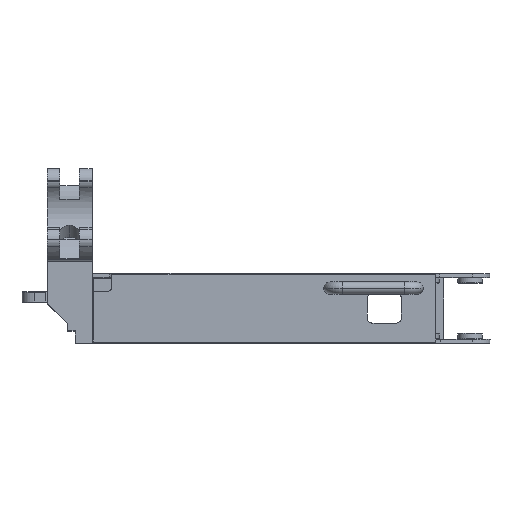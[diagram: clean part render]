
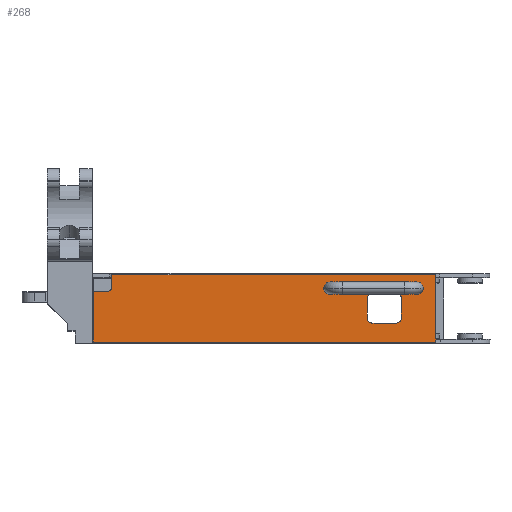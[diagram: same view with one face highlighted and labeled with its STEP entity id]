
A CAD part, top view. The second image highlights one B-rep face of the part: STEP entity #268.
In plain terms, the highlighted planar face has unit normal (0, 0, 1) as drawn and (0.001, 0, -1) by its records, which use the part's own axes.
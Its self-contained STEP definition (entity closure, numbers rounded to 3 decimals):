
#177 = ORIENTED_EDGE ( 'NONE', *, *, #9698, .F. ) ;
#215 = DIRECTION ( 'NONE',  ( 0., -1., 0. ) ) ;
#262 = ORIENTED_EDGE ( 'NONE', *, *, #9456, .F. ) ;
#268 = ADVANCED_FACE ( 'NONE', ( #3773, #4587 ), #895, .T. ) ;
#441 = EDGE_CURVE ( 'NONE', #5784, #8875, #2563, .T. ) ;
#637 = VERTEX_POINT ( 'NONE', #2028 ) ;
#640 = CARTESIAN_POINT ( 'NONE',  ( 364.444, 162.662, -255.576 ) ) ;
#683 = CARTESIAN_POINT ( 'NONE',  ( 284.45, 124.045, -255.649 ) ) ;
#715 = CARTESIAN_POINT ( 'NONE',  ( -333.17, 60.049, -256.155 ) ) ;
#724 = EDGE_CURVE ( 'NONE', #5546, #4748, #6882, .T. ) ;
#810 = DIRECTION ( 'NONE',  ( -1., 0., -0.001 ) ) ;
#815 = CARTESIAN_POINT ( 'NONE',  ( 364.513, 25.429, -255.607 ) ) ;
#895 = PLANE ( 'NONE',  #6440 ) ;
#927 = EDGE_CURVE ( 'NONE', #2126, #5726, #7835, .T. ) ;
#1156 = ORIENTED_EDGE ( 'NONE', *, *, #6038, .T. ) ;
#1200 = DIRECTION ( 'NONE',  ( 0., -1., 0. ) ) ;
#1310 = VERTEX_POINT ( 'NONE', #7714 ) ;
#1328 = DIRECTION ( 'NONE',  ( -0.001, 0., 1. ) ) ;
#1561 = VERTEX_POINT ( 'NONE', #683 ) ;
#1615 = LINE ( 'NONE', #9288, #5752 ) ;
#1813 = ORIENTED_EDGE ( 'NONE', *, *, #6079, .F. ) ;
#2013 = VECTOR ( 'NONE', #7238, 1000. ) ;
#2028 = CARTESIAN_POINT ( 'NONE',  ( 364.445, 162.662, -255.576 ) ) ;
#2126 = VERTEX_POINT ( 'NONE', #9805 ) ;
#2219 = EDGE_CURVE ( 'NONE', #1310, #6109, #2742, .T. ) ;
#2333 = ORIENTED_EDGE ( 'NONE', *, *, #8770, .T. ) ;
#2563 = CIRCLE ( 'NONE', #3667, 10. ) ;
#2706 = CARTESIAN_POINT ( 'NONE',  ( -305.55, 60.049, -256.133 ) ) ;
#2742 = CIRCLE ( 'NONE', #6549, 10. ) ;
#3090 = DIRECTION ( 'NONE',  ( -1., 0., -0.001 ) ) ;
#3114 = DIRECTION ( 'NONE',  ( 1., 0., 0.001 ) ) ;
#3157 = EDGE_CURVE ( 'NONE', #4164, #4617, #8346, .T. ) ;
#3223 = CARTESIAN_POINT ( 'NONE',  ( 234.45, 124.045, -255.689 ) ) ;
#3353 = DIRECTION ( 'NONE',  ( 0., 1., 0. ) ) ;
#3535 = AXIS2_PLACEMENT_3D ( 'NONE', #8186, #1328, #810 ) ;
#3560 = ORIENTED_EDGE ( 'NONE', *, *, #5330, .F. ) ;
#3665 = VECTOR ( 'NONE', #3353, 1000. ) ;
#3667 = AXIS2_PLACEMENT_3D ( 'NONE', #9413, #7112, #4833 ) ;
#3684 = AXIS2_PLACEMENT_3D ( 'NONE', #6198, #8397, #9256 ) ;
#3773 = FACE_BOUND ( 'NONE', #9530, .T. ) ;
#3814 = LINE ( 'NONE', #9260, #9709 ) ;
#4021 = DIRECTION ( 'NONE',  ( 0.001, 0., -1. ) ) ;
#4164 = VERTEX_POINT ( 'NONE', #815 ) ;
#4200 = CARTESIAN_POINT ( 'NONE',  ( 603.799, 124.045, -255.394 ) ) ;
#4209 = AXIS2_PLACEMENT_3D ( 'NONE', #5644, #6468, #8668 ) ;
#4246 = EDGE_LOOP ( 'NONE', ( #262, #1156, #2333, #7677, #7886, #4815, #7202 ) ) ;
#4418 = ORIENTED_EDGE ( 'NONE', *, *, #927, .T. ) ;
#4507 = VERTEX_POINT ( 'NONE', #715 ) ;
#4587 = FACE_OUTER_BOUND ( 'NONE', #4246, .T. ) ;
#4598 = EDGE_CURVE ( 'NONE', #9313, #4748, #8728, .T. ) ;
#4617 = VERTEX_POINT ( 'NONE', #9387 ) ;
#4695 = ORIENTED_EDGE ( 'NONE', *, *, #9713, .T. ) ;
#4748 = VERTEX_POINT ( 'NONE', #6474 ) ;
#4815 = ORIENTED_EDGE ( 'NONE', *, *, #9576, .F. ) ;
#4833 = DIRECTION ( 'NONE',  ( -1., 0., -0.001 ) ) ;
#4877 = CARTESIAN_POINT ( 'NONE',  ( 610.962, -499999.598, -367.782 ) ) ;
#4963 = EDGE_CURVE ( 'NONE', #637, #4164, #9514, .T. ) ;
#5063 = CARTESIAN_POINT ( 'NONE',  ( -333.17, 162.662, -256.132 ) ) ;
#5262 = DIRECTION ( 'NONE',  ( -1., 0., -0.001 ) ) ;
#5317 = VECTOR ( 'NONE', #8856, 1000. ) ;
#5330 = EDGE_CURVE ( 'NONE', #5546, #5726, #3814, .T. ) ;
#5350 = CIRCLE ( 'NONE', #4209, 10. ) ;
#5546 = VERTEX_POINT ( 'NONE', #5759 ) ;
#5644 = CARTESIAN_POINT ( 'NONE',  ( 284.45, 114.045, -255.651 ) ) ;
#5689 = VERTEX_POINT ( 'NONE', #5063 ) ;
#5699 = LINE ( 'NONE', #4200, #2013 ) ;
#5726 = VERTEX_POINT ( 'NONE', #9651 ) ;
#5752 = VECTOR ( 'NONE', #3114, 1000. ) ;
#5759 = CARTESIAN_POINT ( 'NONE',  ( 284.45, 64.045, -255.662 ) ) ;
#5781 = CARTESIAN_POINT ( 'NONE',  ( -295.55, -499999.601, -368.504 ) ) ;
#5784 = VERTEX_POINT ( 'NONE', #3223 ) ;
#5954 = CARTESIAN_POINT ( 'NONE',  ( -305.55, 50.049, -256.136 ) ) ;
#6001 = DIRECTION ( 'NONE',  ( -0.001, 0., 1. ) ) ;
#6038 = EDGE_CURVE ( 'NONE', #4507, #5689, #6476, .T. ) ;
#6079 = EDGE_CURVE ( 'NONE', #5784, #1561, #5699, .T. ) ;
#6109 = VERTEX_POINT ( 'NONE', #2706 ) ;
#6114 = CARTESIAN_POINT ( 'NONE',  ( 603.799, -499999.601, -367.788 ) ) ;
#6198 = CARTESIAN_POINT ( 'NONE',  ( 284.45, 74.045, -255.66 ) ) ;
#6415 = LINE ( 'NONE', #7230, #3665 ) ;
#6440 = AXIS2_PLACEMENT_3D ( 'NONE', #6114, #4021, #9167 ) ;
#6468 = DIRECTION ( 'NONE',  ( -0.001, 0., 1. ) ) ;
#6474 = CARTESIAN_POINT ( 'NONE',  ( 294.45, 74.045, -255.652 ) ) ;
#6476 = LINE ( 'NONE', #7887, #9821 ) ;
#6549 = AXIS2_PLACEMENT_3D ( 'NONE', #5954, #6001, #5262 ) ;
#6872 = ORIENTED_EDGE ( 'NONE', *, *, #441, .T. ) ;
#6882 = CIRCLE ( 'NONE', #3684, 10. ) ;
#7112 = DIRECTION ( 'NONE',  ( -0.001, 0., 1. ) ) ;
#7178 = VECTOR ( 'NONE', #8008, 1000. ) ;
#7202 = ORIENTED_EDGE ( 'NONE', *, *, #2219, .T. ) ;
#7230 = CARTESIAN_POINT ( 'NONE',  ( 224.45, -499999.601, -368.09 ) ) ;
#7238 = DIRECTION ( 'NONE',  ( 1., 0., 0.001 ) ) ;
#7603 = CARTESIAN_POINT ( 'NONE',  ( -295.24, 25.429, -256.133 ) ) ;
#7677 = ORIENTED_EDGE ( 'NONE', *, *, #4963, .T. ) ;
#7714 = CARTESIAN_POINT ( 'NONE',  ( -295.55, 50.049, -256.128 ) ) ;
#7784 = CARTESIAN_POINT ( 'NONE',  ( 294.45, -499999.601, -368.034 ) ) ;
#7835 = CIRCLE ( 'NONE', #3535, 10. ) ;
#7886 = ORIENTED_EDGE ( 'NONE', *, *, #3157, .T. ) ;
#7887 = CARTESIAN_POINT ( 'NONE',  ( -333.17, 162.662, -256.132 ) ) ;
#8008 = DIRECTION ( 'NONE',  ( 0., -1., 0. ) ) ;
#8020 = LINE ( 'NONE', #5781, #9173 ) ;
#8113 = VECTOR ( 'NONE', #9667, 1000. ) ;
#8186 = CARTESIAN_POINT ( 'NONE',  ( 234.45, 74.045, -255.7 ) ) ;
#8346 = LINE ( 'NONE', #7603, #8113 ) ;
#8380 = CARTESIAN_POINT ( 'NONE',  ( 294.45, 114.045, -255.643 ) ) ;
#8397 = DIRECTION ( 'NONE',  ( -0.001, 0., 1. ) ) ;
#8427 = VECTOR ( 'NONE', #215, 1000. ) ;
#8668 = DIRECTION ( 'NONE',  ( -1., 0., -0.001 ) ) ;
#8723 = ORIENTED_EDGE ( 'NONE', *, *, #724, .T. ) ;
#8728 = LINE ( 'NONE', #7784, #8427 ) ;
#8770 = EDGE_CURVE ( 'NONE', #5689, #637, #9668, .T. ) ;
#8856 = DIRECTION ( 'NONE',  ( 1., 0., 0.001 ) ) ;
#8875 = VERTEX_POINT ( 'NONE', #9160 ) ;
#8976 = ORIENTED_EDGE ( 'NONE', *, *, #4598, .F. ) ;
#9160 = CARTESIAN_POINT ( 'NONE',  ( 224.45, 114.045, -255.699 ) ) ;
#9167 = DIRECTION ( 'NONE',  ( 0., -1., 0. ) ) ;
#9173 = VECTOR ( 'NONE', #1200, 1000. ) ;
#9256 = DIRECTION ( 'NONE',  ( -1., 0., -0.001 ) ) ;
#9260 = CARTESIAN_POINT ( 'NONE',  ( 603.799, 64.045, -255.408 ) ) ;
#9288 = CARTESIAN_POINT ( 'NONE',  ( 603.799, 60.049, -255.409 ) ) ;
#9313 = VERTEX_POINT ( 'NONE', #8380 ) ;
#9387 = CARTESIAN_POINT ( 'NONE',  ( -295.55, 25.429, -256.133 ) ) ;
#9413 = CARTESIAN_POINT ( 'NONE',  ( 234.45, 114.045, -255.691 ) ) ;
#9456 = EDGE_CURVE ( 'NONE', #4507, #6109, #1615, .T. ) ;
#9487 = DIRECTION ( 'NONE',  ( 0., 1., 0. ) ) ;
#9514 = LINE ( 'NONE', #4877, #7178 ) ;
#9530 = EDGE_LOOP ( 'NONE', ( #177, #4418, #3560, #8723, #8976, #4695, #1813, #6872 ) ) ;
#9576 = EDGE_CURVE ( 'NONE', #1310, #4617, #8020, .T. ) ;
#9651 = CARTESIAN_POINT ( 'NONE',  ( 234.45, 64.045, -255.702 ) ) ;
#9667 = DIRECTION ( 'NONE',  ( -1., 0., -0.001 ) ) ;
#9668 = LINE ( 'NONE', #640, #5317 ) ;
#9698 = EDGE_CURVE ( 'NONE', #2126, #8875, #6415, .T. ) ;
#9709 = VECTOR ( 'NONE', #3090, 1000. ) ;
#9713 = EDGE_CURVE ( 'NONE', #9313, #1561, #5350, .T. ) ;
#9805 = CARTESIAN_POINT ( 'NONE',  ( 224.45, 74.045, -255.708 ) ) ;
#9821 = VECTOR ( 'NONE', #9487, 1000. ) ;
